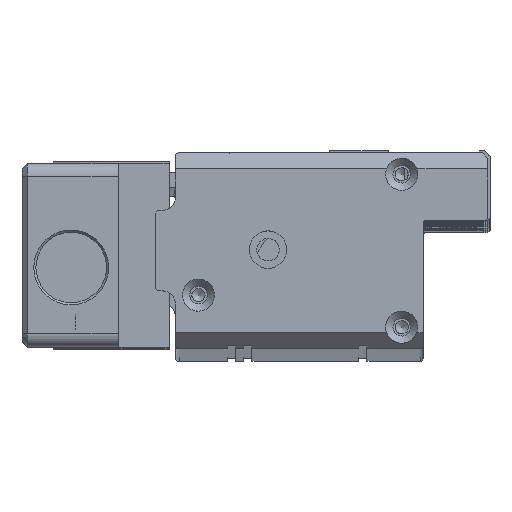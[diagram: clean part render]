
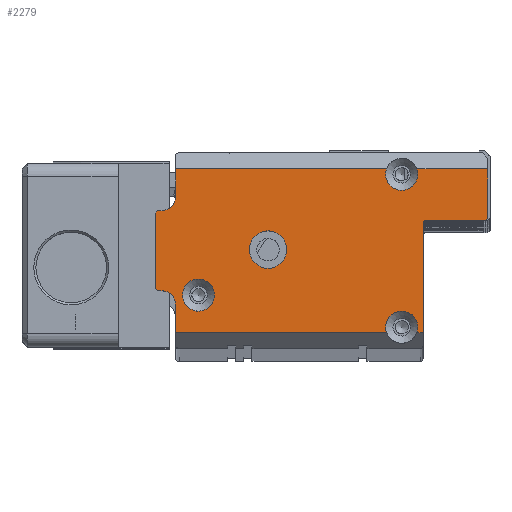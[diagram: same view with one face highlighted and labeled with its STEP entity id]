
A CAD part, top view. The second image highlights one B-rep face of the part: STEP entity #2279.
In plain terms, the highlighted planar face has unit normal (0, 0, 1).
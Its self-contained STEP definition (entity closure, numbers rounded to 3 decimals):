
#2279=ADVANCED_FACE('',(#6441,#6442,#6443),#2853,.T.);
#2853=PLANE('',#18978);
#4444=LINE('',#29876,#6094);
#4445=LINE('',#29878,#6095);
#4446=LINE('',#29882,#6096);
#4447=LINE('',#29886,#6097);
#4448=LINE('',#29888,#6098);
#4449=LINE('',#29892,#6099);
#4450=LINE('',#29894,#6100);
#4451=LINE('',#29898,#6101);
#4452=LINE('',#29902,#6102);
#4453=LINE('',#29906,#6103);
#4454=LINE('',#29910,#6104);
#4455=LINE('',#29912,#6105);
#6094=VECTOR('',#23757,1.);
#6095=VECTOR('',#23758,1.);
#6096=VECTOR('',#23761,1.);
#6097=VECTOR('',#23764,1.);
#6098=VECTOR('',#23765,1.);
#6099=VECTOR('',#23768,1.);
#6100=VECTOR('',#23769,1.);
#6101=VECTOR('',#23772,1.);
#6102=VECTOR('',#23775,1.);
#6103=VECTOR('',#23778,1.);
#6104=VECTOR('',#23781,1.);
#6105=VECTOR('',#23782,1.);
#6441=FACE_BOUND('',#7464,.T.);
#6442=FACE_BOUND('',#7465,.T.);
#6443=FACE_BOUND('',#7466,.T.);
#7464=EDGE_LOOP('',(#12302));
#7465=EDGE_LOOP('',(#12303,#12304,#12305,#12306,#12307,#12308,#12309,#12310,
#12311,#12312,#12313,#12314,#12315,#12316,#12317,#12318,#12319,#12320,#12321,
#12322));
#7466=EDGE_LOOP('',(#12323));
#12302=ORIENTED_EDGE('',*,*,#16639,.T.);
#12303=ORIENTED_EDGE('',*,*,#16640,.T.);
#12304=ORIENTED_EDGE('',*,*,#16641,.T.);
#12305=ORIENTED_EDGE('',*,*,#16642,.T.);
#12306=ORIENTED_EDGE('',*,*,#16643,.T.);
#12307=ORIENTED_EDGE('',*,*,#16644,.T.);
#12308=ORIENTED_EDGE('',*,*,#16645,.T.);
#12309=ORIENTED_EDGE('',*,*,#16646,.T.);
#12310=ORIENTED_EDGE('',*,*,#16647,.T.);
#12311=ORIENTED_EDGE('',*,*,#16648,.T.);
#12312=ORIENTED_EDGE('',*,*,#16649,.T.);
#12313=ORIENTED_EDGE('',*,*,#16650,.T.);
#12314=ORIENTED_EDGE('',*,*,#16651,.T.);
#12315=ORIENTED_EDGE('',*,*,#16652,.T.);
#12316=ORIENTED_EDGE('',*,*,#16653,.T.);
#12317=ORIENTED_EDGE('',*,*,#16654,.T.);
#12318=ORIENTED_EDGE('',*,*,#16655,.T.);
#12319=ORIENTED_EDGE('',*,*,#16656,.T.);
#12320=ORIENTED_EDGE('',*,*,#16657,.T.);
#12321=ORIENTED_EDGE('',*,*,#16658,.T.);
#12322=ORIENTED_EDGE('',*,*,#16659,.T.);
#12323=ORIENTED_EDGE('',*,*,#16660,.T.);
#14167=VERTEX_POINT('',#29872);
#14168=VERTEX_POINT('',#29874);
#14169=VERTEX_POINT('',#29875);
#14170=VERTEX_POINT('',#29877);
#14171=VERTEX_POINT('',#29879);
#14172=VERTEX_POINT('',#29881);
#14173=VERTEX_POINT('',#29883);
#14174=VERTEX_POINT('',#29885);
#14175=VERTEX_POINT('',#29887);
#14176=VERTEX_POINT('',#29889);
#14177=VERTEX_POINT('',#29891);
#14178=VERTEX_POINT('',#29893);
#14179=VERTEX_POINT('',#29895);
#14180=VERTEX_POINT('',#29897);
#14181=VERTEX_POINT('',#29899);
#14182=VERTEX_POINT('',#29901);
#14183=VERTEX_POINT('',#29903);
#14184=VERTEX_POINT('',#29905);
#14185=VERTEX_POINT('',#29907);
#14186=VERTEX_POINT('',#29909);
#14187=VERTEX_POINT('',#29911);
#14188=VERTEX_POINT('',#29914);
#16639=EDGE_CURVE('',#14167,#14167,#17369,.T.);
#16640=EDGE_CURVE('',#14168,#14169,#17370,.T.);
#16641=EDGE_CURVE('',#14169,#14170,#4444,.T.);
#16642=EDGE_CURVE('',#14170,#14171,#4445,.T.);
#16643=EDGE_CURVE('',#14171,#14172,#17371,.T.);
#16644=EDGE_CURVE('',#14172,#14173,#4446,.T.);
#16645=EDGE_CURVE('',#14173,#14174,#17372,.T.);
#16646=EDGE_CURVE('',#14174,#14175,#4447,.T.);
#16647=EDGE_CURVE('',#14175,#14176,#4448,.T.);
#16648=EDGE_CURVE('',#14176,#14177,#17373,.T.);
#16649=EDGE_CURVE('',#14177,#14178,#4449,.T.);
#16650=EDGE_CURVE('',#14178,#14179,#4450,.T.);
#16651=EDGE_CURVE('',#14179,#14180,#17374,.T.);
#16652=EDGE_CURVE('',#14180,#14181,#4451,.T.);
#16653=EDGE_CURVE('',#14181,#14182,#17375,.T.);
#16654=EDGE_CURVE('',#14182,#14183,#4452,.T.);
#16655=EDGE_CURVE('',#14183,#14184,#17376,.T.);
#16656=EDGE_CURVE('',#14184,#14185,#4453,.T.);
#16657=EDGE_CURVE('',#14185,#14186,#17377,.T.);
#16658=EDGE_CURVE('',#14186,#14187,#4454,.T.);
#16659=EDGE_CURVE('',#14187,#14168,#4455,.T.);
#16660=EDGE_CURVE('',#14188,#14188,#17378,.T.);
#17369=CIRCLE('',#18968,3.);
#17370=CIRCLE('',#18969,3.);
#17371=CIRCLE('',#18970,0.5);
#17372=CIRCLE('',#18971,0.5);
#17373=CIRCLE('',#18972,3.);
#17374=CIRCLE('',#18973,2.5);
#17375=CIRCLE('',#18974,0.5);
#17376=CIRCLE('',#18975,0.5);
#17377=CIRCLE('',#18976,2.5);
#17378=CIRCLE('',#18977,3.5);
#18968=AXIS2_PLACEMENT_3D('',#29871,#23753,#23754);
#18969=AXIS2_PLACEMENT_3D('',#29873,#23755,#23756);
#18970=AXIS2_PLACEMENT_3D('',#29880,#23759,#23760);
#18971=AXIS2_PLACEMENT_3D('',#29884,#23762,#23763);
#18972=AXIS2_PLACEMENT_3D('',#29890,#23766,#23767);
#18973=AXIS2_PLACEMENT_3D('',#29896,#23770,#23771);
#18974=AXIS2_PLACEMENT_3D('',#29900,#23773,#23774);
#18975=AXIS2_PLACEMENT_3D('',#29904,#23776,#23777);
#18976=AXIS2_PLACEMENT_3D('',#29908,#23779,#23780);
#18977=AXIS2_PLACEMENT_3D('',#29913,#23783,#23784);
#18978=AXIS2_PLACEMENT_3D('',#29915,#23785,#23786);
#23753=DIRECTION('',(0.,0.,-1.));
#23754=DIRECTION('',(-1.,0.,0.));
#23755=DIRECTION('',(0.,0.,-1.));
#23756=DIRECTION('',(-1.,0.,0.));
#23757=DIRECTION('',(1.,0.,0.));
#23758=DIRECTION('',(0.,1.,0.));
#23759=DIRECTION('',(0.,0.,-1.));
#23760=DIRECTION('',(1.,0.,0.));
#23761=DIRECTION('',(1.,0.,0.));
#23762=DIRECTION('',(0.,0.,1.));
#23763=DIRECTION('',(1.,0.,0.));
#23764=DIRECTION('',(0.,1.,0.));
#23765=DIRECTION('',(-1.,0.,0.));
#23766=DIRECTION('',(0.,0.,-1.));
#23767=DIRECTION('',(-1.,0.,0.));
#23768=DIRECTION('',(-1.,0.,0.));
#23769=DIRECTION('',(0.,-1.,0.));
#23770=DIRECTION('',(0.,0.,-1.));
#23771=DIRECTION('',(1.,0.,0.));
#23772=DIRECTION('',(-1.,0.,0.));
#23773=DIRECTION('',(0.,0.,1.));
#23774=DIRECTION('',(1.,0.,0.));
#23775=DIRECTION('',(0.,-1.,0.));
#23776=DIRECTION('',(0.,0.,1.));
#23777=DIRECTION('',(1.,0.,0.));
#23778=DIRECTION('',(1.,0.,0.));
#23779=DIRECTION('',(0.,0.,-1.));
#23780=DIRECTION('',(1.,0.,0.));
#23781=DIRECTION('',(0.,-1.,0.));
#23782=DIRECTION('',(1.,0.,0.));
#23783=DIRECTION('',(0.,0.,-1.));
#23784=DIRECTION('',(-1.,0.,0.));
#23785=DIRECTION('',(0.,0.,1.));
#23786=DIRECTION('',(-1.,0.,0.));
#29871=CARTESIAN_POINT('',(8.,-26.6,8.));
#29872=CARTESIAN_POINT('',(5.,-26.6,8.));
#29873=CARTESIAN_POINT('',(46.,-32.6,8.));
#29874=CARTESIAN_POINT('',(43.172,-33.6,8.));
#29875=CARTESIAN_POINT('',(48.828,-33.6,8.));
#29876=CARTESIAN_POINT('',(50.,-33.6,8.));
#29877=CARTESIAN_POINT('',(50.,-33.6,8.));
#29878=CARTESIAN_POINT('',(50.,-36.6,8.));
#29879=CARTESIAN_POINT('',(50.,-13.1,8.));
#29880=CARTESIAN_POINT('',(50.5,-13.1,8.));
#29881=CARTESIAN_POINT('',(50.5,-12.6,8.));
#29882=CARTESIAN_POINT('',(50.,-12.6,8.));
#29883=CARTESIAN_POINT('',(61.6,-12.6,8.));
#29884=CARTESIAN_POINT('',(61.6,-12.1,8.));
#29885=CARTESIAN_POINT('',(62.1,-12.1,8.));
#29886=CARTESIAN_POINT('',(62.1,-12.6,8.));
#29887=CARTESIAN_POINT('',(62.1,-3.,8.));
#29888=CARTESIAN_POINT('',(3.7,-3.,8.));
#29889=CARTESIAN_POINT('',(48.828,-3.,8.));
#29890=CARTESIAN_POINT('',(46.,-4.,8.));
#29891=CARTESIAN_POINT('',(43.172,-3.,8.));
#29892=CARTESIAN_POINT('',(3.7,-3.,8.));
#29893=CARTESIAN_POINT('',(3.7,-3.,8.));
#29894=CARTESIAN_POINT('',(3.7,0.,8.));
#29895=CARTESIAN_POINT('',(3.7,-8.3,8.));
#29896=CARTESIAN_POINT('',(1.2,-8.3,8.));
#29897=CARTESIAN_POINT('',(1.2,-10.8,8.));
#29898=CARTESIAN_POINT('',(3.7,-10.8,8.));
#29899=CARTESIAN_POINT('',(0.5,-10.8,8.));
#29900=CARTESIAN_POINT('',(0.5,-11.3,8.));
#29901=CARTESIAN_POINT('',(0.,-11.3,8.));
#29902=CARTESIAN_POINT('',(0.,-10.8,8.));
#29903=CARTESIAN_POINT('',(0.,-25.3,8.));
#29904=CARTESIAN_POINT('',(0.5,-25.3,8.));
#29905=CARTESIAN_POINT('',(0.5,-25.8,8.));
#29906=CARTESIAN_POINT('',(0.,-25.8,8.));
#29907=CARTESIAN_POINT('',(1.2,-25.8,8.));
#29908=CARTESIAN_POINT('',(1.2,-28.3,8.));
#29909=CARTESIAN_POINT('',(3.7,-28.3,8.));
#29910=CARTESIAN_POINT('',(3.7,-25.8,8.));
#29911=CARTESIAN_POINT('',(3.7,-33.6,8.));
#29912=CARTESIAN_POINT('',(50.,-33.6,8.));
#29913=CARTESIAN_POINT('',(21.,-18.1,8.));
#29914=CARTESIAN_POINT('',(17.5,-18.1,8.));
#29915=CARTESIAN_POINT('',(0.,0.,8.));
